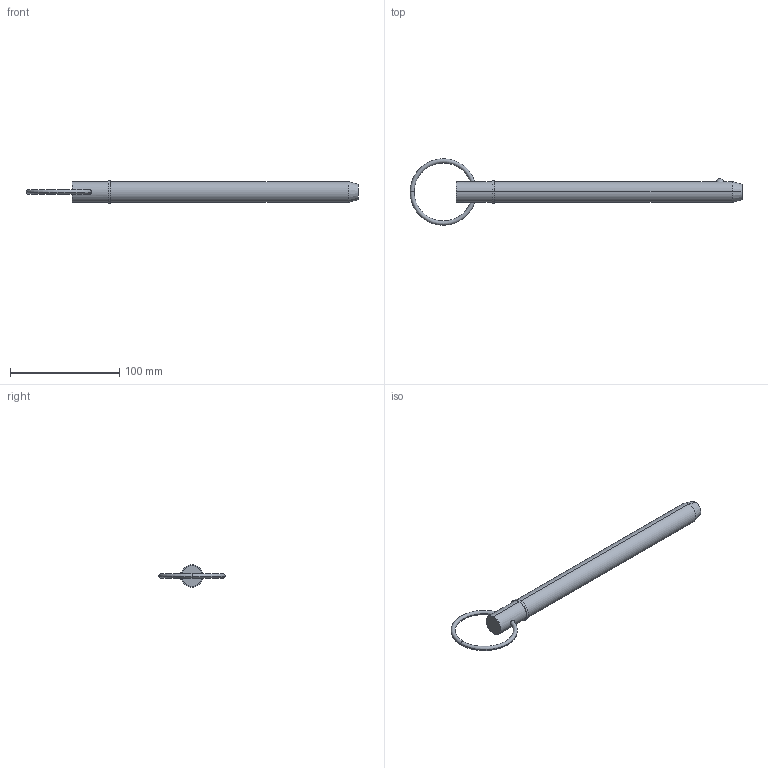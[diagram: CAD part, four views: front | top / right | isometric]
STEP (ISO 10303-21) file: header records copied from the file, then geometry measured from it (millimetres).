
FILE_DESCRIPTION (( 'STEP AP203' ), '1' );
FILE_NAME ('33016.W7580.step', '2024-11-07T11:15:43', ( '' ), ( '' ), 'SwSTEP 2.0', 'SolidWorks 2019', '' );
FILE_SCHEMA (( 'CONFIG_CONTROL_DESIGN' ));
Length unit declared in the file: millimetre
Products named in the file (3): Part1_33016.W7580; Part2_33016.W7580; 33016.W7580
Assembly tree (2 placements, depth 2):
  33016.W7580
    Part1_33016.W7580
    Part2_33016.W7580
Bounding box: 304.4 x 60.96 x 20.95 mm (x, y, z)
Volume: 75962.7 mm3; surface area: 18627.6 mm2
Topology: 2 solids, 2 shells, 22 faces, 43 edges, 26 vertices
Faces by surface type: torus 8, cylinder 6, plane 4, sphere 2, cone 2
Entity records: 1053 total; most frequent: CARTESIAN_POINT 276, DIRECTION 120, ORIENTED_EDGE 86, AXIS2_PLACEMENT_3D 56, EDGE_CURVE 43, CIRCLE 29, EDGE_LOOP 27, PERSON_AND_ORGANIZATION 26
